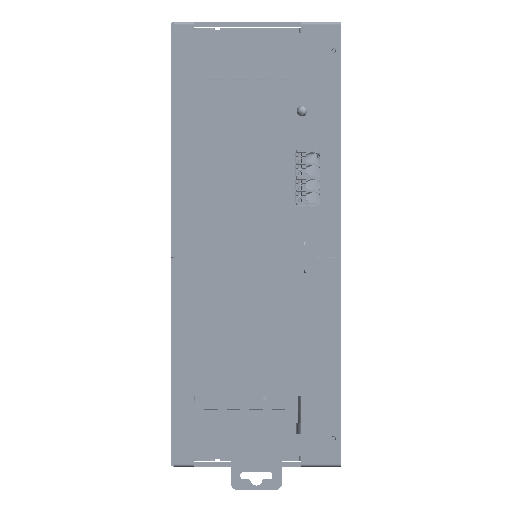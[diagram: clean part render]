
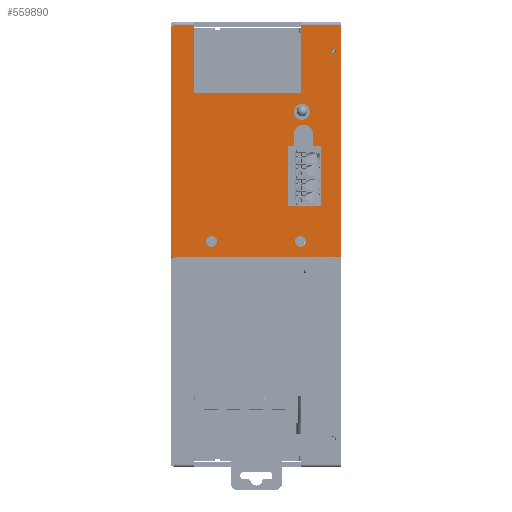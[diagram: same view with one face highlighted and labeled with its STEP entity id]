
A CAD part, left-side view. The second image highlights one B-rep face of the part: STEP entity #559890.
In plain terms, the highlighted planar face has unit normal (-1, 0, 0).
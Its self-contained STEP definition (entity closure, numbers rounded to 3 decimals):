
#555210=CARTESIAN_POINT('',(-36.647,70.686,
74.55));
#555220=VERTEX_POINT('',#555210);
#555250=CARTESIAN_POINT('',(-36.647,70.686,
74.3));
#555260=DIRECTION('',(0.,0.,1.));
#555270=VECTOR('',#555260,1.);
#555280=LINE('',#555250,#555270);
#555290=CARTESIAN_POINT('',(-36.647,70.686,
74.3));
#555300=VERTEX_POINT('',#555290);
#555310=EDGE_CURVE('',#555300,#555220,#555280,.T.);
#555700=CARTESIAN_POINT('',(-36.647,34.963,
74.55));
#555710=VERTEX_POINT('',#555700);
#555800=CARTESIAN_POINT('',(-36.647,23.686,
74.55));
#555810=VERTEX_POINT('',#555800);
#555840=CARTESIAN_POINT('',(-36.647,70.686,
74.55));
#555850=DIRECTION('',(0.,-1.,0.));
#555860=VECTOR('',#555850,1.);
#555870=LINE('',#555840,#555860);
#555880=EDGE_CURVE('',#555710,#555810,#555870,.T.);
#557280=CARTESIAN_POINT('',(-36.647,23.686,
9.2));
#557290=VERTEX_POINT('',#557280);
#557440=CARTESIAN_POINT('',(-36.647,71.686,
9.2));
#557450=VERTEX_POINT('',#557440);
#557480=CARTESIAN_POINT('',(-36.647,0.,9.2));
#557490=DIRECTION('',(0.,-1.,0.));
#557500=VECTOR('',#557490,1.);
#557510=LINE('',#557480,#557500);
#557520=EDGE_CURVE('',#557450,#557290,#557510,.T.);
#558050=CARTESIAN_POINT('',(-36.647,31.986,92.23
));
#558060=DIRECTION('',(-1.,0.,0.));
#558070=DIRECTION('',(0.,0.,1.));
#558080=AXIS2_PLACEMENT_3D('',#558050,#558060,#558070);
#558090=PLANE('',#558080);
#558100=CARTESIAN_POINT('',(-36.647,25.786,67.202
));
#558110=DIRECTION('',(1.,0.,0.));
#558120=DIRECTION('',(0.,1.,0.));
#558130=AXIS2_PLACEMENT_3D('',#558100,#558110,#558120);
#558140=CIRCLE('',#558130,0.662);
#558150=CARTESIAN_POINT('',(-36.647,26.449,
67.202));
#558160=VERTEX_POINT('',#558150);
#558170=CARTESIAN_POINT('',(-36.647,25.124,
67.202));
#558180=VERTEX_POINT('',#558170);
#558190=EDGE_CURVE('',#558160,#558180,#558140,.T.);
#558200=ORIENTED_EDGE('',*,*,#558190,.T.);
#558210=EDGE_CURVE('',#558180,#558160,#558140,.T.);
#558220=ORIENTED_EDGE('',*,*,#558210,.T.);
#558230=EDGE_LOOP('',(#558220,#558200));
#558240=FACE_BOUND('',#558230,.T.);
#558250=CARTESIAN_POINT('',(-36.647,34.286,
43.597));
#558260=DIRECTION('',(1.,0.,0.));
#558270=DIRECTION('',(0.,1.,0.));
#558280=AXIS2_PLACEMENT_3D('',#558250,#558260,#558270);
#558290=CIRCLE('',#558280,2.75);
#558300=CARTESIAN_POINT('',(-36.647,37.036,
43.597));
#558310=VERTEX_POINT('',#558300);
#558320=CARTESIAN_POINT('',(-36.647,31.536,
43.597));
#558330=VERTEX_POINT('',#558320);
#558340=EDGE_CURVE('',#558310,#558330,#558290,.T.);
#558350=ORIENTED_EDGE('',*,*,#558340,.T.);
#558360=CARTESIAN_POINT('',(-36.647,37.036,
42.885));
#558370=DIRECTION('',(0.,0.,-1.));
#558380=VECTOR('',#558370,1.);
#558390=LINE('',#558360,#558380);
#558400=CARTESIAN_POINT('',(-36.647,37.036,
40.508));
#558410=VERTEX_POINT('',#558400);
#558420=EDGE_CURVE('',#558310,#558410,#558390,.T.);
#558430=ORIENTED_EDGE('',*,*,#558420,.F.);
#558440=CARTESIAN_POINT('',(-36.647,36.29,
40.508));
#558450=DIRECTION('',(0.,1.,0.));
#558460=VECTOR('',#558450,1.);
#558470=LINE('',#558440,#558460);
#558480=CARTESIAN_POINT('',(-36.647,38.786,
40.508));
#558490=VERTEX_POINT('',#558480);
#558500=EDGE_CURVE('',#558410,#558490,#558470,.T.);
#558510=ORIENTED_EDGE('',*,*,#558500,.F.);
#558520=CARTESIAN_POINT('',(-36.647,38.786,
23.409));
#558530=DIRECTION('',(0.,0.,1.));
#558540=VECTOR('',#558530,1.);
#558550=LINE('',#558520,#558540);
#558560=CARTESIAN_POINT('',(-36.647,38.786,
23.509));
#558570=VERTEX_POINT('',#558560);
#558580=EDGE_CURVE('',#558570,#558490,#558550,.T.);
#558590=ORIENTED_EDGE('',*,*,#558580,.T.);
#558600=CARTESIAN_POINT('',(-36.647,29.786,
23.509));
#558610=DIRECTION('',(0.,1.,0.));
#558620=VECTOR('',#558610,1.);
#558630=LINE('',#558600,#558620);
#558640=CARTESIAN_POINT('',(-36.647,29.286,
23.509));
#558650=VERTEX_POINT('',#558640);
#558660=EDGE_CURVE('',#558650,#558570,#558630,.T.);
#558670=ORIENTED_EDGE('',*,*,#558660,.T.);
#558680=CARTESIAN_POINT('',(-36.647,29.286,
23.409));
#558690=DIRECTION('',(0.,0.,1.));
#558700=VECTOR('',#558690,1.);
#558710=LINE('',#558680,#558700);
#558720=CARTESIAN_POINT('',(-36.647,29.286,
40.508));
#558730=VERTEX_POINT('',#558720);
#558740=EDGE_CURVE('',#558650,#558730,#558710,.T.);
#558750=ORIENTED_EDGE('',*,*,#558740,.F.);
#558760=CARTESIAN_POINT('',(-36.647,29.786,
40.508));
#558770=DIRECTION('',(0.,1.,0.));
#558780=VECTOR('',#558770,1.);
#558790=LINE('',#558760,#558780);
#558800=CARTESIAN_POINT('',(-36.647,31.536,
40.508));
#558810=VERTEX_POINT('',#558800);
#558820=EDGE_CURVE('',#558730,#558810,#558790,.T.);
#558830=ORIENTED_EDGE('',*,*,#558820,.F.);
#558840=CARTESIAN_POINT('',(-36.647,31.536,
39.908));
#558850=DIRECTION('',(0.,0.,1.));
#558860=VECTOR('',#558850,1.);
#558870=LINE('',#558840,#558860);
#558880=EDGE_CURVE('',#558810,#558330,#558870,.T.);
#558890=ORIENTED_EDGE('',*,*,#558880,.F.);
#558900=EDGE_LOOP('',(#558890,#558830,#558750,#558670,#558590,#558510,
#558430,#558350));
#558910=FACE_BOUND('',#558900,.T.);
#558920=CARTESIAN_POINT('',(-36.647,35.186,13.55
));
#558930=DIRECTION('',(1.,0.,0.));
#558940=DIRECTION('',(0.,0.,-1.));
#558950=AXIS2_PLACEMENT_3D('',#558920,#558930,#558940);
#558960=CIRCLE('',#558950,1.5);
#558970=CARTESIAN_POINT('',(-36.647,35.186,15.05
));
#558980=VERTEX_POINT('',#558970);
#558990=CARTESIAN_POINT('',(-36.647,35.186,12.05
));
#559000=VERTEX_POINT('',#558990);
#559010=EDGE_CURVE('',#558980,#559000,#558960,.T.);
#559020=ORIENTED_EDGE('',*,*,#559010,.T.);
#559030=EDGE_CURVE('',#559000,#558980,#558960,.T.);
#559040=ORIENTED_EDGE('',*,*,#559030,.T.);
#559050=EDGE_LOOP('',(#559040,#559020));
#559060=FACE_BOUND('',#559050,.T.);
#559070=CARTESIAN_POINT('',(-36.647,60.186,13.55
));
#559080=DIRECTION('',(1.,0.,0.));
#559090=DIRECTION('',(0.,0.,-1.));
#559100=AXIS2_PLACEMENT_3D('',#559070,#559080,#559090);
#559110=CIRCLE('',#559100,1.5);
#559120=CARTESIAN_POINT('',(-36.647,60.186,15.05
));
#559130=VERTEX_POINT('',#559120);
#559140=CARTESIAN_POINT('',(-36.647,60.186,12.05
));
#559150=VERTEX_POINT('',#559140);
#559160=EDGE_CURVE('',#559130,#559150,#559110,.T.);
#559170=ORIENTED_EDGE('',*,*,#559160,.T.);
#559180=EDGE_CURVE('',#559150,#559130,#559110,.T.);
#559190=ORIENTED_EDGE('',*,*,#559180,.T.);
#559200=EDGE_LOOP('',(#559190,#559170));
#559210=FACE_BOUND('',#559200,.T.);
#559220=CARTESIAN_POINT('',(-36.647,34.799,
50.041));
#559230=DIRECTION('',(-1.,0.,0.));
#559240=DIRECTION('',(0.,1.,0.));
#559250=AXIS2_PLACEMENT_3D('',#559220,#559230,#559240);
#559260=CIRCLE('',#559250,2.25);
#559270=CARTESIAN_POINT('',(-36.647,37.049,
50.041));
#559280=VERTEX_POINT('',#559270);
#559290=CARTESIAN_POINT('',(-36.647,32.549,
50.041));
#559300=VERTEX_POINT('',#559290);
#559310=EDGE_CURVE('',#559280,#559300,#559260,.T.);
#559320=ORIENTED_EDGE('',*,*,#559310,.F.);
#559330=EDGE_CURVE('',#559300,#559280,#559260,.T.);
#559340=ORIENTED_EDGE('',*,*,#559330,.F.);
#559350=EDGE_LOOP('',(#559340,#559320));
#559360=FACE_BOUND('',#559350,.T.);
#559370=ORIENTED_EDGE('',*,*,#557520,.T.);
#559380=CARTESIAN_POINT('',(-36.647,71.686,
74.3));
#559390=DIRECTION('',(0.,0.,-1.));
#559400=VECTOR('',#559390,1.);
#559410=LINE('',#559380,#559400);
#559420=CARTESIAN_POINT('',(-36.647,71.686,
73.3));
#559430=VERTEX_POINT('',#559420);
#559440=EDGE_CURVE('',#559430,#557450,#559410,.T.);
#559450=ORIENTED_EDGE('',*,*,#559440,.T.);
#559460=CARTESIAN_POINT('',(-36.647,70.686,
73.3));
#559470=DIRECTION('',(1.,0.,0.));
#559480=DIRECTION('',(0.,-1.,0.));
#559490=AXIS2_PLACEMENT_3D('',#559460,#559470,#559480);
#559500=CIRCLE('',#559490,1.);
#559510=EDGE_CURVE('',#559430,#555300,#559500,.T.);
#559520=ORIENTED_EDGE('',*,*,#559510,.F.);
#559530=ORIENTED_EDGE('',*,*,#555310,.F.);
#559540=CARTESIAN_POINT('',(-36.647,65.163,
74.55));
#559550=VERTEX_POINT('',#559540);
#559560=EDGE_CURVE('',#555220,#559550,#555870,.T.);
#559570=ORIENTED_EDGE('',*,*,#559560,.F.);
#559580=CARTESIAN_POINT('',(-36.647,65.163,0.));
#559590=DIRECTION('',(0.,0.,1.));
#559600=VECTOR('',#559590,1.);
#559610=LINE('',#559580,#559600);
#559620=CARTESIAN_POINT('',(-36.647,65.163,
55.35));
#559630=VERTEX_POINT('',#559620);
#559640=EDGE_CURVE('',#559630,#559550,#559610,.T.);
#559650=ORIENTED_EDGE('',*,*,#559640,.T.);
#559660=CARTESIAN_POINT('',(-36.647,0.,55.35));
#559670=DIRECTION('',(0.,1.,0.));
#559680=VECTOR('',#559670,1.);
#559690=LINE('',#559660,#559680);
#559700=CARTESIAN_POINT('',(-36.647,34.963,
55.35));
#559710=VERTEX_POINT('',#559700);
#559720=EDGE_CURVE('',#559710,#559630,#559690,.T.);
#559730=ORIENTED_EDGE('',*,*,#559720,.T.);
#559740=CARTESIAN_POINT('',(-36.647,34.963,0.));
#559750=DIRECTION('',(0.,0.,-1.));
#559760=VECTOR('',#559750,1.);
#559770=LINE('',#559740,#559760);
#559780=EDGE_CURVE('',#555710,#559710,#559770,.T.);
#559790=ORIENTED_EDGE('',*,*,#559780,.T.);
#559800=ORIENTED_EDGE('',*,*,#555880,.F.);
#559810=CARTESIAN_POINT('',(-36.647,23.686,0.));
#559820=DIRECTION('',(0.,0.,1.));
#559830=VECTOR('',#559820,1.);
#559840=LINE('',#559810,#559830);
#559850=EDGE_CURVE('',#557290,#555810,#559840,.T.);
#559860=ORIENTED_EDGE('',*,*,#559850,.T.);
#559870=EDGE_LOOP('',(#559860,#559800,#559790,#559730,#559650,#559570,
#559530,#559520,#559450,#559370));
#559880=FACE_OUTER_BOUND('',#559870,.T.);
#559890=ADVANCED_FACE('',(#558240,#558910,#559060,#559210,#559360,
#559880),#558090,.T.);
